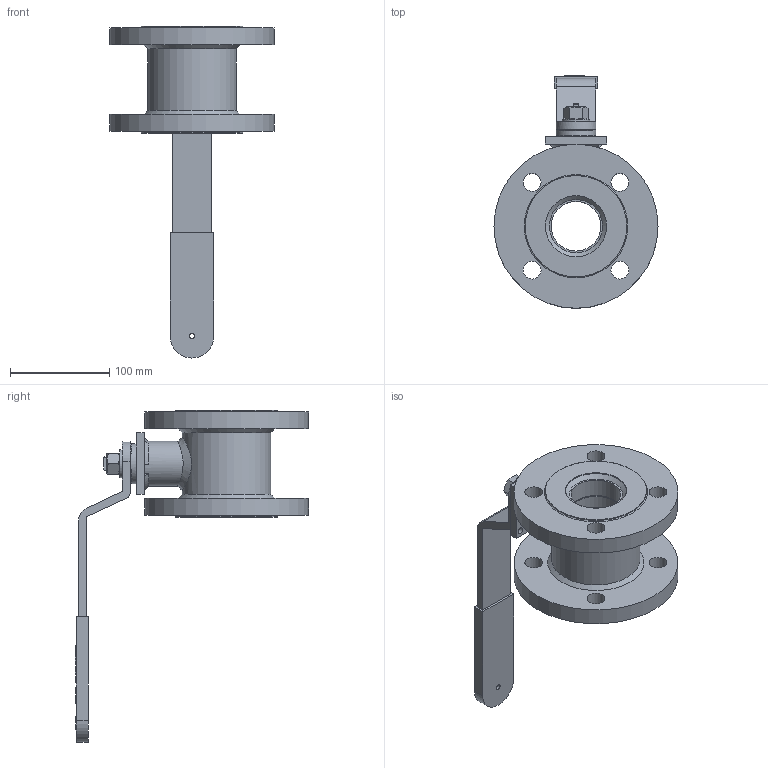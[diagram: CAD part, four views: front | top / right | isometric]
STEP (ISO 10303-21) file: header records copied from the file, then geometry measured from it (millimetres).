
FILE_DESCRIPTION(/* description */ (''),/* implementation_level */ '2;1');
FILE_NAME(/* name */ 'S:\Rysunki Konstrukcyjne\Dokumenty konstrukcyjne INVENTOR\Modele kooperacyjne\Rys. handlowe 31.10.2017 M. Moryto\50.21k.000.B1-10-16.00.stp',/* time_stamp */ '2017-10-31T08:18:48+01:00',/* author */ ('pdrozdzowski'),/* organization */ (''),/* preprocessor_version */ 'ST-DEVELOPER v15.6',/* originating_system */ 'Autodesk Inventor 2015',/* authorisation */ '');
FILE_SCHEMA (('AUTOMOTIVE_DESIGN { 1 0 10303 214 3 1 1 }'));
Length unit declared in the file: centimetre
Products named in the file (1): 50.21k.000.B1-10-16.00
Bounding box: 165 x 234.45 x 334 mm (x, y, z)
Volume: 1079191.5 mm3; surface area: 233748.5 mm2
Topology: 1 solids, 10 shells, 588 faces, 1535 edges, 1008 vertices
Faces by surface type: plane 447, cylinder 106, cone 25, torus 6, sphere 3, bspline 1
Full cylindrical faces by diameter (mm): 2 x2, 5 x1, 6.647 x4, 14 x1, 15 x1, 18 x8, 24 x1, 24.3 x1, 25 x3, 25.8 x1, 28 x1, 32 x1, 33 x2, 33.3 x1, 33.8 x1, 34 x1, 36.5 x1, 36.8 x2, 37 x2, 40 x1, 45 x1, 50 x3, 59 x2, 61.5 x2, 63.5 x2, 79.5 x2, 80.9 x1, 88.9 x3, 90 x2, 102 x2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
Entity records: 18364 total; most frequent: CARTESIAN_POINT 3523, ORIENTED_EDGE 2852, DIRECTION 2841, EDGE_CURVE 1426, LINE 1103, VECTOR 1103, VERTEX_POINT 979, AXIS2_PLACEMENT_3D 869
